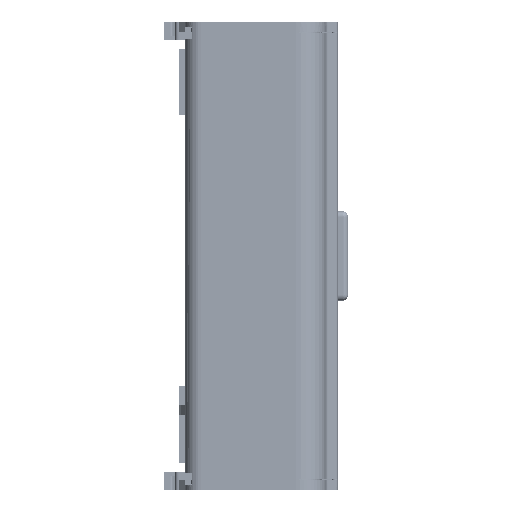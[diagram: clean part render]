
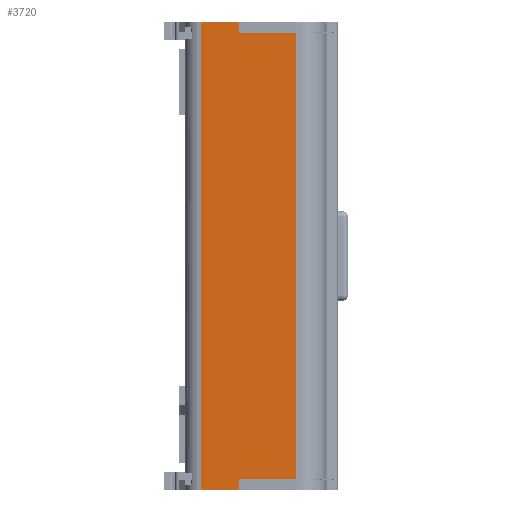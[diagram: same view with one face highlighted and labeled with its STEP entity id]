
A CAD part, front view. The second image highlights one B-rep face of the part: STEP entity #3720.
In plain terms, the highlighted planar face has unit normal (0, -1, 0).
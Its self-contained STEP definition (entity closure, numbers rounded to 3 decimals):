
#3720=ADVANCED_FACE('',(#6679),#5316,.T.);
#5316=PLANE('',#34685);
#6679=FACE_OUTER_BOUND('',#8275,.T.);
#8275=EDGE_LOOP('',(#14573,#14574,#14575,#14576,#14577,#14578,#14579,#14580));
#14573=ORIENTED_EDGE('',*,*,#24782,.F.);
#14574=ORIENTED_EDGE('',*,*,#24783,.F.);
#14575=ORIENTED_EDGE('',*,*,#24784,.T.);
#14576=ORIENTED_EDGE('',*,*,#24785,.F.);
#14577=ORIENTED_EDGE('',*,*,#24762,.F.);
#14578=ORIENTED_EDGE('',*,*,#24786,.T.);
#14579=ORIENTED_EDGE('',*,*,#24787,.F.);
#14580=ORIENTED_EDGE('',*,*,#24788,.T.);
#20925=VERTEX_POINT('',#60477);
#20926=VERTEX_POINT('',#60478);
#20945=VERTEX_POINT('',#60519);
#20946=VERTEX_POINT('',#60520);
#20947=VERTEX_POINT('',#60522);
#20948=VERTEX_POINT('',#60524);
#20949=VERTEX_POINT('',#60527);
#20950=VERTEX_POINT('',#60529);
#24762=EDGE_CURVE('',#20925,#20926,#28863,.T.);
#24782=EDGE_CURVE('',#20945,#20946,#28877,.T.);
#24783=EDGE_CURVE('',#20947,#20945,#28878,.T.);
#24784=EDGE_CURVE('',#20947,#20948,#28879,.T.);
#24785=EDGE_CURVE('',#20926,#20948,#28880,.T.);
#24786=EDGE_CURVE('',#20925,#20949,#28881,.T.);
#24787=EDGE_CURVE('',#20950,#20949,#28882,.T.);
#24788=EDGE_CURVE('',#20950,#20946,#28883,.T.);
#28863=LINE('',#60476,#32045);
#28877=LINE('',#60518,#32059);
#28878=LINE('',#60521,#32060);
#28879=LINE('',#60523,#32061);
#28880=LINE('',#60525,#32062);
#28881=LINE('',#60526,#32063);
#28882=LINE('',#60528,#32064);
#28883=LINE('',#60530,#32065);
#32045=VECTOR('',#39477,1.);
#32059=VECTOR('',#39507,1.);
#32060=VECTOR('',#39508,1.);
#32061=VECTOR('',#39509,1.);
#32062=VECTOR('',#39510,1.);
#32063=VECTOR('',#39511,1.);
#32064=VECTOR('',#39512,1.);
#32065=VECTOR('',#39513,1.);
#34685=AXIS2_PLACEMENT_3D('',#60531,#39514,#39515);
#39477=DIRECTION('',(0.,0.,1.));
#39507=DIRECTION('',(0.,0.,-1.));
#39508=DIRECTION('',(1.,0.,0.));
#39509=DIRECTION('',(0.,0.,1.));
#39510=DIRECTION('',(1.,0.,0.));
#39511=DIRECTION('',(1.,0.,0.));
#39512=DIRECTION('',(0.,0.,-1.));
#39513=DIRECTION('',(1.,0.,0.));
#39514=DIRECTION('',(0.,-1.,0.));
#39515=DIRECTION('',(0.,0.,1.));
#60476=CARTESIAN_POINT('',(-14.817,-42.063,-158.241));
#60477=CARTESIAN_POINT('',(-14.817,-42.063,-23.765));
#60478=CARTESIAN_POINT('',(-14.817,-42.063,107.235));
#60518=CARTESIAN_POINT('',(11.683,-42.063,-158.241));
#60519=CARTESIAN_POINT('',(11.683,-42.063,104.235));
#60520=CARTESIAN_POINT('',(11.683,-42.063,-20.765));
#60521=CARTESIAN_POINT('',(-32.836,-42.063,104.235));
#60522=CARTESIAN_POINT('',(-4.317,-42.063,104.235));
#60523=CARTESIAN_POINT('',(-4.317,-42.063,125.623));
#60524=CARTESIAN_POINT('',(-4.317,-42.063,107.235));
#60525=CARTESIAN_POINT('',(-32.836,-42.063,107.235));
#60526=CARTESIAN_POINT('',(-32.836,-42.063,-23.765));
#60527=CARTESIAN_POINT('',(-4.317,-42.063,-23.765));
#60528=CARTESIAN_POINT('',(-4.317,-42.063,-42.153));
#60529=CARTESIAN_POINT('',(-4.317,-42.063,-20.765));
#60530=CARTESIAN_POINT('',(-32.836,-42.063,-20.765));
#60531=CARTESIAN_POINT('',(-32.836,-42.063,-158.241));
